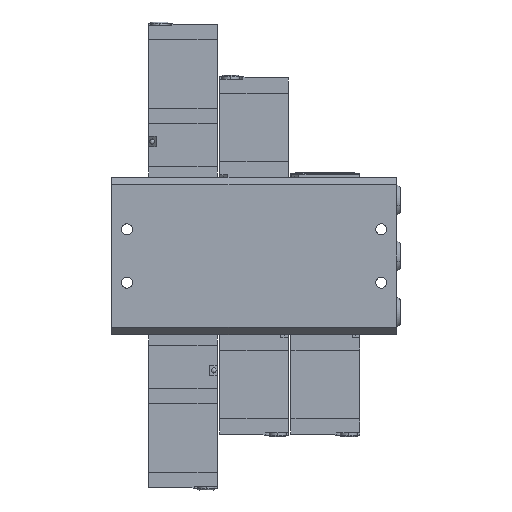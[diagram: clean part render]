
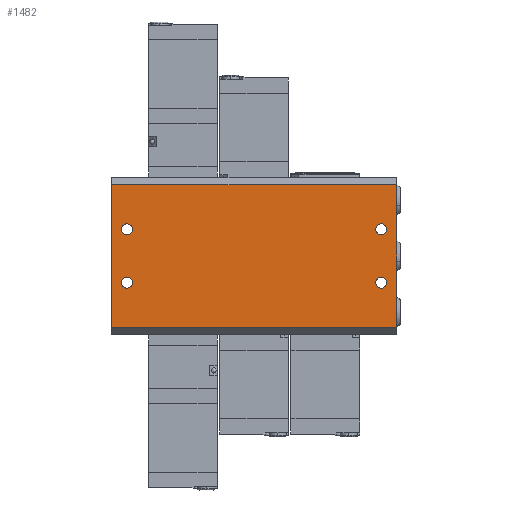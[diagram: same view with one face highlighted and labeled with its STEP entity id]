
A CAD part, front view. The second image highlights one B-rep face of the part: STEP entity #1482.
In plain terms, the highlighted planar face has unit normal (0, -1, 0).
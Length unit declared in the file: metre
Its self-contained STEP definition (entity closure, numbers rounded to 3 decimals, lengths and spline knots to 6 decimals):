
#167 = ORIENTED_EDGE ( 'NONE', *, *, #18254, .F. ) ;
#459 = CARTESIAN_POINT ( 'NONE',  ( 0.05, -0.011, 0.00835 ) ) ;
#646 = CARTESIAN_POINT ( 'NONE',  ( 0.05, -0.011, -0.0105 ) ) ;
#966 = FACE_BOUND ( 'NONE', #20248, .T. ) ;
#1008 = EDGE_LOOP ( 'NONE', ( #1476, #9851, #167, #3919 ) ) ;
#1039 = EDGE_CURVE ( 'NONE', #4007, #2847, #7200, .T. ) ;
#1070 = CARTESIAN_POINT ( 'NONE',  ( 0.056, -0.011, 0.028 ) ) ;
#1078 = CARTESIAN_POINT ( 'NONE',  ( 0.05, -0.011, -0.01265 ) ) ;
#1291 = ORIENTED_EDGE ( 'NONE', *, *, #1039, .F. ) ;
#1449 = CIRCLE ( 'NONE', #2196, 0.00215 ) ;
#1450 = CARTESIAN_POINT ( 'NONE',  ( -0.056, -0.011, 0.028 ) ) ;
#1476 = ORIENTED_EDGE ( 'NONE', *, *, #21040, .F. ) ;
#1482 = ADVANCED_FACE ( 'NONE', ( #17963, #5397, #966, #18446, #9241 ), #14156, .F. ) ;
#1499 = AXIS2_PLACEMENT_3D ( 'NONE', #12519, #2680, #14188 ) ;
#1740 = CIRCLE ( 'NONE', #21031, 0.00215 ) ;
#2196 = AXIS2_PLACEMENT_3D ( 'NONE', #9863, #19681, #11516 ) ;
#2348 = DIRECTION ( 'NONE',  ( 0., 0., 1. ) ) ;
#2680 = DIRECTION ( 'NONE',  ( 0., -1., 0. ) ) ;
#2847 = VERTEX_POINT ( 'NONE', #17953 ) ;
#2959 = VERTEX_POINT ( 'NONE', #16020 ) ;
#3404 = DIRECTION ( 'NONE',  ( 0., 0., -1. ) ) ;
#3602 = AXIS2_PLACEMENT_3D ( 'NONE', #8331, #19730, #9989 ) ;
#3708 = ORIENTED_EDGE ( 'NONE', *, *, #12082, .F. ) ;
#3919 = ORIENTED_EDGE ( 'NONE', *, *, #8244, .F. ) ;
#3957 = ORIENTED_EDGE ( 'NONE', *, *, #7461, .F. ) ;
#4007 = VERTEX_POINT ( 'NONE', #1078 ) ;
#4025 = CIRCLE ( 'NONE', #10720, 0.00215 ) ;
#4175 = CARTESIAN_POINT ( 'NONE',  ( 0., -0.011, 0.028 ) ) ;
#4721 = ORIENTED_EDGE ( 'NONE', *, *, #11194, .F. ) ;
#5397 = FACE_BOUND ( 'NONE', #8508, .T. ) ;
#5818 = DIRECTION ( 'NONE',  ( 0., 0., 1. ) ) ;
#5836 = LINE ( 'NONE', #19355, #14567 ) ;
#5839 = VERTEX_POINT ( 'NONE', #459 ) ;
#5920 = DIRECTION ( 'NONE',  ( 0., -1., 0. ) ) ;
#5979 = DIRECTION ( 'NONE',  ( 0., 0., 1. ) ) ;
#6042 = CARTESIAN_POINT ( 'NONE',  ( 0.05, -0.011, 0.0105 ) ) ;
#6110 = EDGE_CURVE ( 'NONE', #12995, #5839, #1740, .T. ) ;
#6138 = DIRECTION ( 'NONE',  ( 0., -1., 0. ) ) ;
#6255 = DIRECTION ( 'NONE',  ( 0., 0., 1. ) ) ;
#6700 = CARTESIAN_POINT ( 'NONE',  ( 0.056, -0.011, 0. ) ) ;
#7131 = LINE ( 'NONE', #7458, #19138 ) ;
#7200 = CIRCLE ( 'NONE', #3602, 0.00215 ) ;
#7458 = CARTESIAN_POINT ( 'NONE',  ( -0.056, -0.011, 0. ) ) ;
#7461 = EDGE_CURVE ( 'NONE', #16446, #17250, #16122, .T. ) ;
#7477 = CARTESIAN_POINT ( 'NONE',  ( 0.05, -0.011, 0.0105 ) ) ;
#8065 = ORIENTED_EDGE ( 'NONE', *, *, #6110, .F. ) ;
#8244 = EDGE_CURVE ( 'NONE', #11438, #2959, #5836, .T. ) ;
#8307 = VERTEX_POINT ( 'NONE', #1450 ) ;
#8331 = CARTESIAN_POINT ( 'NONE',  ( 0.05, -0.011, -0.0105 ) ) ;
#8491 = ORIENTED_EDGE ( 'NONE', *, *, #19690, .F. ) ;
#8508 = EDGE_LOOP ( 'NONE', ( #17945, #3708 ) ) ;
#9118 = DIRECTION ( 'NONE',  ( 0., 0., 1. ) ) ;
#9241 = FACE_OUTER_BOUND ( 'NONE', #1008, .T. ) ;
#9440 = ORIENTED_EDGE ( 'NONE', *, *, #12495, .F. ) ;
#9851 = ORIENTED_EDGE ( 'NONE', *, *, #15556, .F. ) ;
#9863 = CARTESIAN_POINT ( 'NONE',  ( -0.05, -0.011, 0.0105 ) ) ;
#9875 = CARTESIAN_POINT ( 'NONE',  ( -0.05, -0.011, 0.01265 ) ) ;
#9989 = DIRECTION ( 'NONE',  ( 0., 0., 1. ) ) ;
#10616 = AXIS2_PLACEMENT_3D ( 'NONE', #7477, #18903, #9118 ) ;
#10720 = AXIS2_PLACEMENT_3D ( 'NONE', #15754, #5920, #17398 ) ;
#10842 = CARTESIAN_POINT ( 'NONE',  ( -0.056, -0.011, -0.028 ) ) ;
#11194 = EDGE_CURVE ( 'NONE', #2847, #4007, #13849, .T. ) ;
#11438 = VERTEX_POINT ( 'NONE', #17650 ) ;
#11516 = DIRECTION ( 'NONE',  ( 0., 0., 1. ) ) ;
#11807 = CARTESIAN_POINT ( 'NONE',  ( -0.05, -0.011, -0.0105 ) ) ;
#11824 = DIRECTION ( 'NONE',  ( 0., -1., 0. ) ) ;
#11852 = DIRECTION ( 'NONE',  ( 0., 0., 1. ) ) ;
#11863 = LINE ( 'NONE', #4175, #15733 ) ;
#11874 = EDGE_CURVE ( 'NONE', #21016, #18515, #12273, .T. ) ;
#12082 = EDGE_CURVE ( 'NONE', #18515, #21016, #1449, .T. ) ;
#12188 = DIRECTION ( 'NONE',  ( 0., -1., 0. ) ) ;
#12273 = CIRCLE ( 'NONE', #1499, 0.00215 ) ;
#12495 = EDGE_CURVE ( 'NONE', #5839, #12995, #13805, .T. ) ;
#12519 = CARTESIAN_POINT ( 'NONE',  ( -0.05, -0.011, 0.0105 ) ) ;
#12995 = VERTEX_POINT ( 'NONE', #17000 ) ;
#13456 = VECTOR ( 'NONE', #3404, 1. ) ;
#13805 = CIRCLE ( 'NONE', #10616, 0.00215 ) ;
#13849 = CIRCLE ( 'NONE', #14871, 0.00215 ) ;
#14156 = PLANE ( 'NONE',  #15316 ) ;
#14188 = DIRECTION ( 'NONE',  ( 0., 0., 1. ) ) ;
#14455 = EDGE_LOOP ( 'NONE', ( #8065, #9440 ) ) ;
#14567 = VECTOR ( 'NONE', #20961, 1. ) ;
#14871 = AXIS2_PLACEMENT_3D ( 'NONE', #646, #12188, #2348 ) ;
#14982 = VERTEX_POINT ( 'NONE', #1070 ) ;
#15107 = CARTESIAN_POINT ( 'NONE',  ( -0.05, -0.011, -0.00835 ) ) ;
#15316 = AXIS2_PLACEMENT_3D ( 'NONE', #10842, #15803, #5979 ) ;
#15556 = EDGE_CURVE ( 'NONE', #8307, #14982, #11863, .T. ) ;
#15733 = VECTOR ( 'NONE', #17300, 1. ) ;
#15754 = CARTESIAN_POINT ( 'NONE',  ( -0.05, -0.011, -0.0105 ) ) ;
#15803 = DIRECTION ( 'NONE',  ( 0., 1., 0. ) ) ;
#16020 = CARTESIAN_POINT ( 'NONE',  ( -0.056, -0.011, -0.028 ) ) ;
#16122 = CIRCLE ( 'NONE', #18012, 0.00215 ) ;
#16324 = CARTESIAN_POINT ( 'NONE',  ( -0.05, -0.011, -0.01265 ) ) ;
#16446 = VERTEX_POINT ( 'NONE', #15107 ) ;
#17000 = CARTESIAN_POINT ( 'NONE',  ( 0.05, -0.011, 0.01265 ) ) ;
#17250 = VERTEX_POINT ( 'NONE', #16324 ) ;
#17300 = DIRECTION ( 'NONE',  ( 1., 0., 0. ) ) ;
#17398 = DIRECTION ( 'NONE',  ( 0., 0., 1. ) ) ;
#17650 = CARTESIAN_POINT ( 'NONE',  ( 0.056, -0.011, -0.028 ) ) ;
#17945 = ORIENTED_EDGE ( 'NONE', *, *, #11874, .F. ) ;
#17953 = CARTESIAN_POINT ( 'NONE',  ( 0.05, -0.011, -0.00835 ) ) ;
#17963 = FACE_BOUND ( 'NONE', #20502, .T. ) ;
#18012 = AXIS2_PLACEMENT_3D ( 'NONE', #11807, #11824, #11852 ) ;
#18254 = EDGE_CURVE ( 'NONE', #2959, #8307, #7131, .T. ) ;
#18446 = FACE_BOUND ( 'NONE', #14455, .T. ) ;
#18515 = VERTEX_POINT ( 'NONE', #20744 ) ;
#18814 = LINE ( 'NONE', #6700, #13456 ) ;
#18903 = DIRECTION ( 'NONE',  ( 0., -1., 0. ) ) ;
#19138 = VECTOR ( 'NONE', #5818, 1. ) ;
#19355 = CARTESIAN_POINT ( 'NONE',  ( 0., -0.011, -0.028 ) ) ;
#19681 = DIRECTION ( 'NONE',  ( 0., -1., 0. ) ) ;
#19690 = EDGE_CURVE ( 'NONE', #17250, #16446, #4025, .T. ) ;
#19730 = DIRECTION ( 'NONE',  ( 0., -1., 0. ) ) ;
#20248 = EDGE_LOOP ( 'NONE', ( #3957, #8491 ) ) ;
#20502 = EDGE_LOOP ( 'NONE', ( #4721, #1291 ) ) ;
#20744 = CARTESIAN_POINT ( 'NONE',  ( -0.05, -0.011, 0.00835 ) ) ;
#20961 = DIRECTION ( 'NONE',  ( -1., 0., 0. ) ) ;
#21016 = VERTEX_POINT ( 'NONE', #9875 ) ;
#21031 = AXIS2_PLACEMENT_3D ( 'NONE', #6042, #6138, #6255 ) ;
#21040 = EDGE_CURVE ( 'NONE', #14982, #11438, #18814, .T. ) ;
